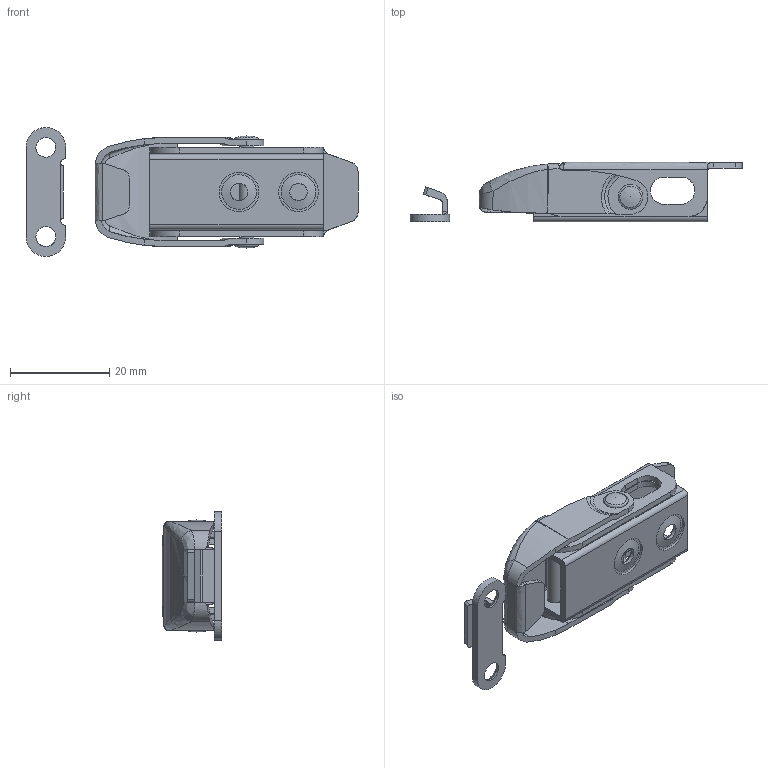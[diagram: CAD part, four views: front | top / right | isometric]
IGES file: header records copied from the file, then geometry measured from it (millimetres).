
Global section: file name: DR_C-1537-4; native system: Autodesk Inventor 2015; preprocessor: unknown; author: user; date: 20180301.100226; units: millimetre
Bounding box: 66.97 x 12 x 25.98 mm (x, y, z)
Volume: 4116.2 mm3; surface area: 7774.8 mm2
Topology: 6 solids, 6 shells, 233 faces, 653 edges, 430 vertices
Faces by surface type: bspline 233
